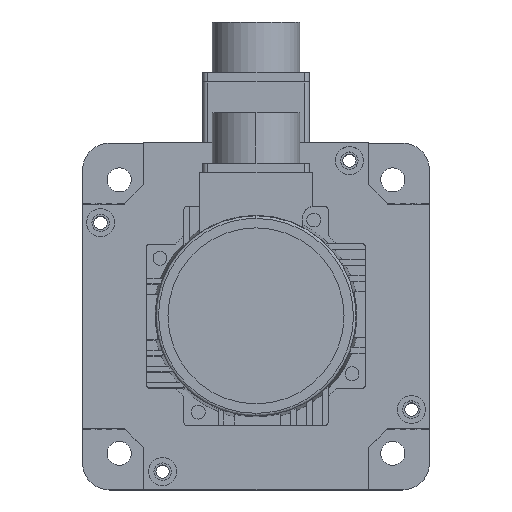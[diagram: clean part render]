
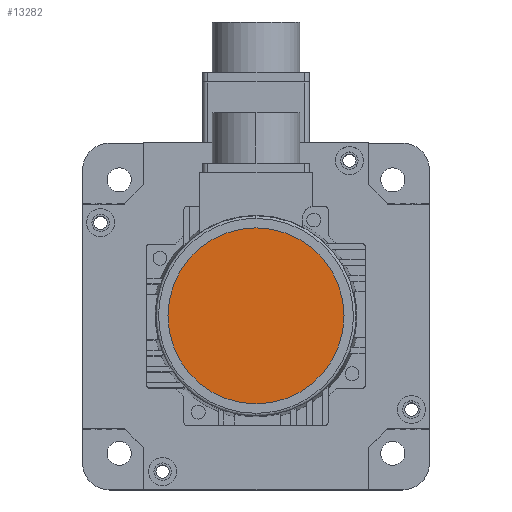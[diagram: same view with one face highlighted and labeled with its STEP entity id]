
A CAD part, top view. The second image highlights one B-rep face of the part: STEP entity #13282.
In plain terms, the highlighted planar face has unit normal (0, 0, 1).
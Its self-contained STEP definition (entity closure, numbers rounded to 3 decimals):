
#1679 = CARTESIAN_POINT ( 'NONE',  ( -93.288, -2.493, 137.25 ) ) ;
#2176 = ORIENTED_EDGE ( 'NONE', *, *, #18747, .T. ) ;
#2815 = DIRECTION ( 'NONE',  ( 1., 0., 0. ) ) ;
#4007 = EDGE_LOOP ( 'NONE', ( #2176, #24152 ) ) ;
#6864 = VERTEX_POINT ( 'NONE', #18992 ) ;
#7010 = CARTESIAN_POINT ( 'NONE',  ( -60.288, -2.493, 137.25 ) ) ;
#9319 = DIRECTION ( 'NONE',  ( 1., 0., 0. ) ) ;
#11116 = DIRECTION ( 'NONE',  ( 1., 0., 0. ) ) ;
#11898 = EDGE_CURVE ( 'NONE', #23042, #6864, #26031, .T. ) ;
#12325 = FACE_OUTER_BOUND ( 'NONE', #4007, .T. ) ;
#13282 = ADVANCED_FACE ( 'NONE', ( #12325 ), #16540, .T. ) ;
#14233 = CARTESIAN_POINT ( 'NONE',  ( -60.288, -2.493, 137.25 ) ) ;
#15822 = DIRECTION ( 'NONE',  ( 0., 0., 1. ) ) ;
#16540 = PLANE ( 'NONE',  #26225 ) ;
#16802 = AXIS2_PLACEMENT_3D ( 'NONE', #18328, #23112, #9319 ) ;
#18328 = CARTESIAN_POINT ( 'NONE',  ( -60.288, -2.493, 137.25 ) ) ;
#18652 = DIRECTION ( 'NONE',  ( 0., 0., 1. ) ) ;
#18747 = EDGE_CURVE ( 'NONE', #6864, #23042, #27088, .T. ) ;
#18992 = CARTESIAN_POINT ( 'NONE',  ( -27.288, -2.493, 137.25 ) ) ;
#23042 = VERTEX_POINT ( 'NONE', #1679 ) ;
#23112 = DIRECTION ( 'NONE',  ( 0., 0., 1. ) ) ;
#23494 = AXIS2_PLACEMENT_3D ( 'NONE', #7010, #15822, #11116 ) ;
#24152 = ORIENTED_EDGE ( 'NONE', *, *, #11898, .T. ) ;
#26031 = CIRCLE ( 'NONE', #16802, 33. ) ;
#26225 = AXIS2_PLACEMENT_3D ( 'NONE', #14233, #18652, #2815 ) ;
#27088 = CIRCLE ( 'NONE', #23494, 33. ) ;
